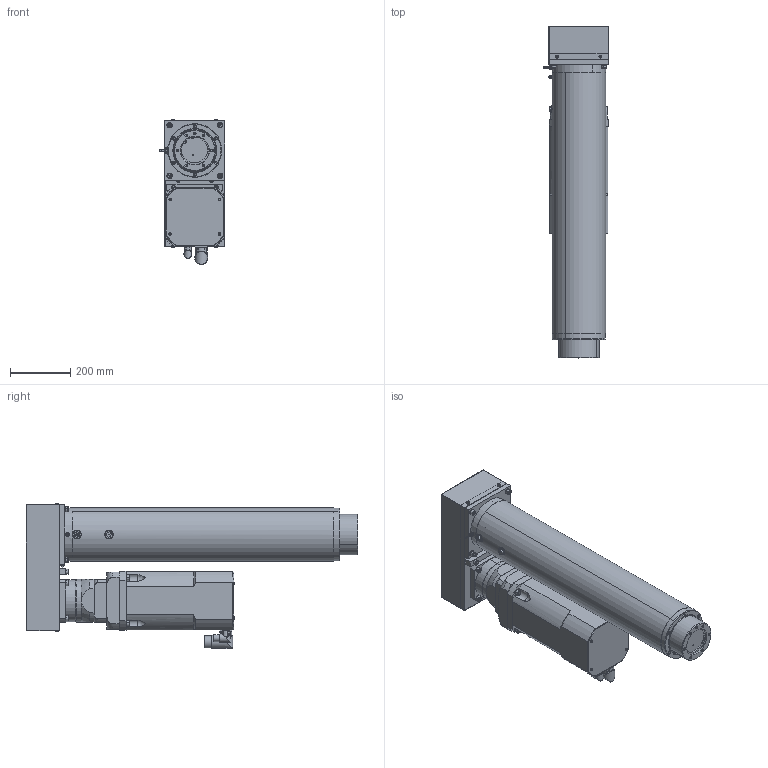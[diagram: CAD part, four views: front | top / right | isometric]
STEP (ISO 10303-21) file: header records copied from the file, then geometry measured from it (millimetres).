
FILE_DESCRIPTION (( 'STEP AP203' ), '1' );
FILE_NAME ('LN5P1000-055-020HG.STEP', '2018-01-30T12:33:52', ( '' ), ( '' ), 'SwSTEP 2.0', 'SolidWorks 2016', '' );
FILE_SCHEMA (( 'CONFIG_CONTROL_DESIGN' ));
Length unit declared in the file: millimetre
Products named in the file (1): LN5P1000-055-020HG
Bounding box: 218.14 x 1103.5 x 483.25 mm (x, y, z)
Volume: 35124732.1 mm3; surface area: 3052564.4 mm2
Topology: 44 solids, 44 shells, 1422 faces, 3321 edges, 1989 vertices
Faces by surface type: plane 553, cylinder 522, cone 237, torus 78, bspline 30, sphere 2
Entity records: 42007 total; most frequent: CARTESIAN_POINT 9318, DIRECTION 7225, ORIENTED_EDGE 6358, EDGE_CURVE 3179, AXIS2_PLACEMENT_3D 2816, VERTEX_POINT 1989, EDGE_LOOP 1692, LINE 1593
